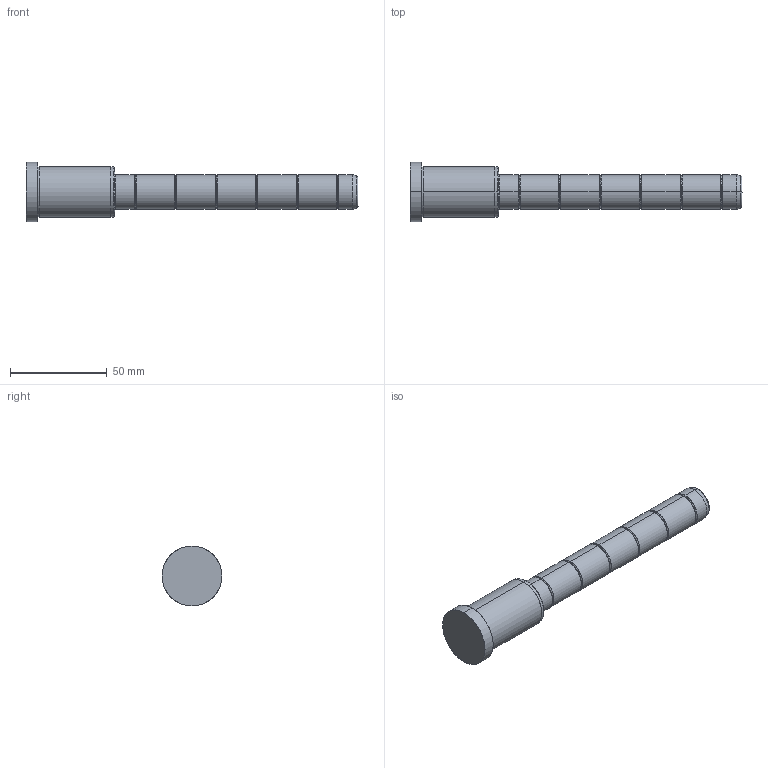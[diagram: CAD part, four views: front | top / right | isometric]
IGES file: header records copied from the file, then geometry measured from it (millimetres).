
Start section: SolidWorks IGES file using analytic representation for surfaces
Global section: file name: C:\Documents and Settings\kalite-mail\Desktop\IGS\D02\18\D02 - 18x46x126.IGS; native system: SolidWorks 2008; preprocessor: SolidWorks 2008; author: kalite-mail; date: 080616.151324; units: millimetre
Bounding box: 172 x 31 x 31 mm (x, y, z)
Surface area: 12571.6 mm2 (no closed solid volume)
Topology: 0 solids, 0 shells, 60 faces, 600 edges, 600 vertices
Faces by surface type: bspline 34, revolution 26
